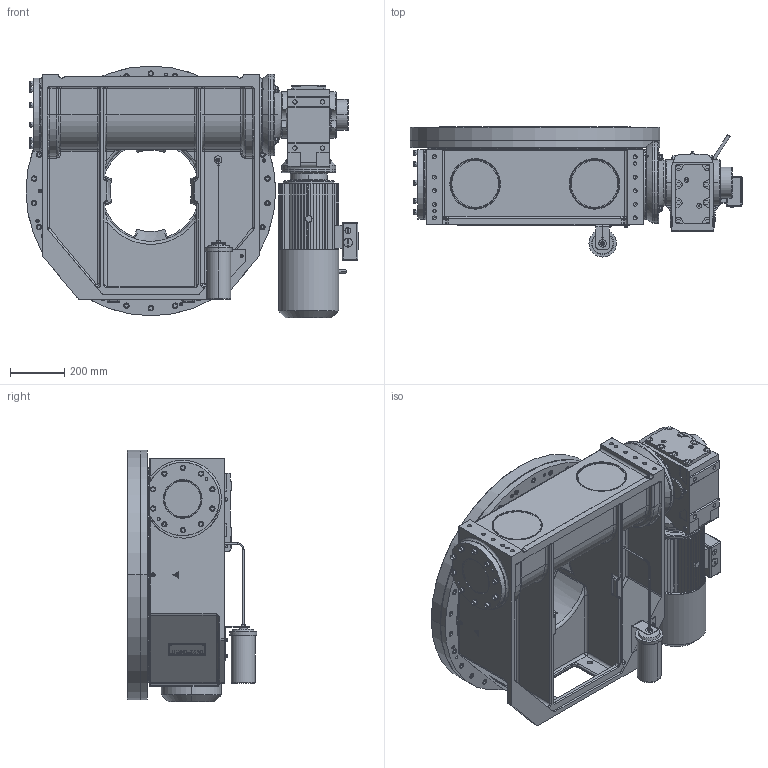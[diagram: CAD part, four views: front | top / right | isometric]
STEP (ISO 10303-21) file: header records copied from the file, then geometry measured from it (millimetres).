
FILE_DESCRIPTION((''),'2;1');
FILE_NAME('A7105','2009-07-08T',('mmueller'),('EXPERT Maschinenbau GmbH'),'PRO/ENGINEER BY PARAMETRIC TECHNOLOGY CORPORATION, 2007390','PRO/ENGINEER BY PARAMETRIC TECHNOLOGY CORPORATION, 2007390','');
FILE_SCHEMA(('CONFIG_CONTROL_DESIGN'));
Products named in the file (1): A7105
Bounding box: 1223.5 x 478.5 x 928 mm (x, y, z)
Surface area: 7716928.8 mm2 (no closed solid volume)
Topology: 0 solids, 274 shells, 2865 faces, 9226 edges, 6658 vertices
Faces by surface type: plane 1215, cylinder 929, torus 285, cone 246, bspline 158, sphere 32
Entity records: 110085 total; most frequent: CARTESIAN_POINT 29700, DIRECTION 17001, ORIENTED_EDGE 14985, EDGE_CURVE 9159, VERTEX_POINT 6657, AXIS2_PLACEMENT_3D 6052, VECTOR 4897, LINE 4897
